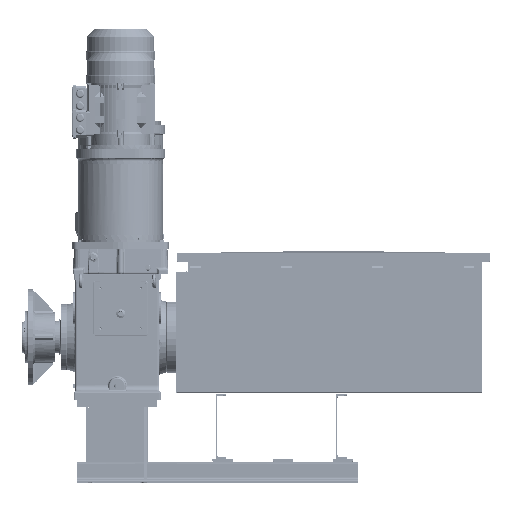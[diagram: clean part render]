
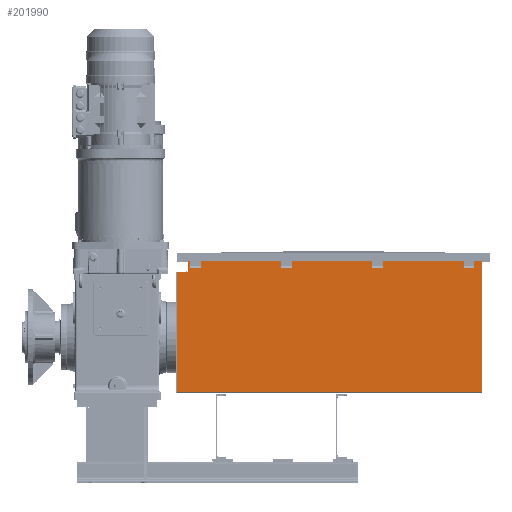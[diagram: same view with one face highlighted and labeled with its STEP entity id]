
A CAD part, top view. The second image highlights one B-rep face of the part: STEP entity #201990.
In plain terms, the highlighted planar face has unit normal (0, 0, 1).
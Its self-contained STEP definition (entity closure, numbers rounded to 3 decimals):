
#18677=FACE_OUTER_BOUND('',#30603,.T.);
#30603=EDGE_LOOP('',(#158642,#158643,#158644,#158645,#158646,#158647,#158648,
#158649,#158650,#158651,#158652,#158653,#158654,#158655,#158656,#158657,
#158658,#158659,#158660,#158661,#158662,#158663));
#44962=LINE('',#342445,#62102);
#44994=LINE('',#342526,#62134);
#45022=LINE('',#342589,#62162);
#45023=LINE('',#342591,#62163);
#45024=LINE('',#342593,#62164);
#45025=LINE('',#342595,#62165);
#45026=LINE('',#342596,#62166);
#45027=LINE('',#342598,#62167);
#45028=LINE('',#342600,#62168);
#45029=LINE('',#342602,#62169);
#45030=LINE('',#342604,#62170);
#45031=LINE('',#342606,#62171);
#45032=LINE('',#342608,#62172);
#45033=LINE('',#342610,#62173);
#45034=LINE('',#342612,#62174);
#45035=LINE('',#342614,#62175);
#45036=LINE('',#342616,#62176);
#45037=LINE('',#342618,#62177);
#45038=LINE('',#342620,#62178);
#45039=LINE('',#342622,#62179);
#45040=LINE('',#342624,#62180);
#45041=LINE('',#342625,#62181);
#62102=VECTOR('',#255507,1138.);
#62134=VECTOR('',#255567,494.048);
#62162=VECTOR('',#255607,32.647);
#62163=VECTOR('',#255608,9.984);
#62164=VECTOR('',#255609,46.032);
#62165=VECTOR('',#255610,40.);
#62166=VECTOR('',#255611,448.016);
#62167=VECTOR('',#255612,28.016);
#62168=VECTOR('',#255613,32.647);
#62169=VECTOR('',#255614,40.);
#62170=VECTOR('',#255615,32.647);
#62171=VECTOR('',#255616,300.);
#62172=VECTOR('',#255617,32.647);
#62173=VECTOR('',#255618,40.);
#62174=VECTOR('',#255619,32.647);
#62175=VECTOR('',#255620,300.);
#62176=VECTOR('',#255621,32.647);
#62177=VECTOR('',#255622,40.);
#62178=VECTOR('',#255623,32.647);
#62179=VECTOR('',#255624,300.);
#62180=VECTOR('',#255625,32.647);
#62181=VECTOR('',#255626,40.);
#87855=VERTEX_POINT('',#342443);
#87856=VERTEX_POINT('',#342444);
#87891=VERTEX_POINT('',#342524);
#87919=VERTEX_POINT('',#342587);
#87920=VERTEX_POINT('',#342588);
#87921=VERTEX_POINT('',#342590);
#87922=VERTEX_POINT('',#342592);
#87923=VERTEX_POINT('',#342594);
#87924=VERTEX_POINT('',#342597);
#87925=VERTEX_POINT('',#342599);
#87926=VERTEX_POINT('',#342601);
#87927=VERTEX_POINT('',#342603);
#87928=VERTEX_POINT('',#342605);
#87929=VERTEX_POINT('',#342607);
#87930=VERTEX_POINT('',#342609);
#87931=VERTEX_POINT('',#342611);
#87932=VERTEX_POINT('',#342613);
#87933=VERTEX_POINT('',#342615);
#87934=VERTEX_POINT('',#342617);
#87935=VERTEX_POINT('',#342619);
#87936=VERTEX_POINT('',#342621);
#87937=VERTEX_POINT('',#342623);
#112508=EDGE_CURVE('',#87855,#87856,#44962,.T.);
#112550=EDGE_CURVE('',#87891,#87855,#44994,.T.);
#112580=EDGE_CURVE('',#87919,#87920,#45022,.T.);
#112581=EDGE_CURVE('',#87920,#87921,#45023,.T.);
#112582=EDGE_CURVE('',#87921,#87922,#45024,.T.);
#112583=EDGE_CURVE('',#87922,#87923,#45025,.T.);
#112584=EDGE_CURVE('',#87856,#87923,#45026,.T.);
#112585=EDGE_CURVE('',#87891,#87924,#45027,.T.);
#112586=EDGE_CURVE('',#87924,#87925,#45028,.T.);
#112587=EDGE_CURVE('',#87925,#87926,#45029,.T.);
#112588=EDGE_CURVE('',#87926,#87927,#45030,.T.);
#112589=EDGE_CURVE('',#87927,#87928,#45031,.T.);
#112590=EDGE_CURVE('',#87928,#87929,#45032,.T.);
#112591=EDGE_CURVE('',#87929,#87930,#45033,.T.);
#112592=EDGE_CURVE('',#87930,#87931,#45034,.T.);
#112593=EDGE_CURVE('',#87931,#87932,#45035,.T.);
#112594=EDGE_CURVE('',#87932,#87933,#45036,.T.);
#112595=EDGE_CURVE('',#87933,#87934,#45037,.T.);
#112596=EDGE_CURVE('',#87934,#87935,#45038,.T.);
#112597=EDGE_CURVE('',#87935,#87936,#45039,.T.);
#112598=EDGE_CURVE('',#87936,#87937,#45040,.T.);
#112599=EDGE_CURVE('',#87937,#87919,#45041,.T.);
#158642=ORIENTED_EDGE('',*,*,#112580,.T.);
#158643=ORIENTED_EDGE('',*,*,#112581,.T.);
#158644=ORIENTED_EDGE('',*,*,#112582,.T.);
#158645=ORIENTED_EDGE('',*,*,#112583,.T.);
#158646=ORIENTED_EDGE('',*,*,#112584,.F.);
#158647=ORIENTED_EDGE('',*,*,#112508,.F.);
#158648=ORIENTED_EDGE('',*,*,#112550,.F.);
#158649=ORIENTED_EDGE('',*,*,#112585,.T.);
#158650=ORIENTED_EDGE('',*,*,#112586,.T.);
#158651=ORIENTED_EDGE('',*,*,#112587,.T.);
#158652=ORIENTED_EDGE('',*,*,#112588,.T.);
#158653=ORIENTED_EDGE('',*,*,#112589,.T.);
#158654=ORIENTED_EDGE('',*,*,#112590,.T.);
#158655=ORIENTED_EDGE('',*,*,#112591,.T.);
#158656=ORIENTED_EDGE('',*,*,#112592,.T.);
#158657=ORIENTED_EDGE('',*,*,#112593,.T.);
#158658=ORIENTED_EDGE('',*,*,#112594,.T.);
#158659=ORIENTED_EDGE('',*,*,#112595,.T.);
#158660=ORIENTED_EDGE('',*,*,#112596,.T.);
#158661=ORIENTED_EDGE('',*,*,#112597,.T.);
#158662=ORIENTED_EDGE('',*,*,#112598,.T.);
#158663=ORIENTED_EDGE('',*,*,#112599,.T.);
#181215=PLANE('',#217377);
#201990=ADVANCED_FACE('',(#18677),#181215,.T.);
#217377=AXIS2_PLACEMENT_3D('',#342586,#255605,#255606);
#255507=DIRECTION('',(-1.,0.,0.));
#255567=DIRECTION('',(0.,-1.,0.));
#255605=DIRECTION('center_axis',(0.,0.,
1.));
#255606=DIRECTION('ref_axis',(0.,1.,0.));
#255607=DIRECTION('',(0.,1.,0.));
#255608=DIRECTION('',(-1.,0.,0.));
#255609=DIRECTION('',(0.,-1.,0.));
#255610=DIRECTION('',(-1.,0.,0.));
#255611=DIRECTION('',(0.,1.,0.));
#255612=DIRECTION('',(-1.,0.,0.));
#255613=DIRECTION('',(0.,-1.,0.));
#255614=DIRECTION('',(-1.,0.,0.));
#255615=DIRECTION('',(0.,1.,0.));
#255616=DIRECTION('',(-1.,0.,0.));
#255617=DIRECTION('',(0.,-1.,0.));
#255618=DIRECTION('',(-1.,0.,0.));
#255619=DIRECTION('',(0.,1.,0.));
#255620=DIRECTION('',(-1.,0.,0.));
#255621=DIRECTION('',(0.,-1.,0.));
#255622=DIRECTION('',(-1.,0.,0.));
#255623=DIRECTION('',(0.,1.,0.));
#255624=DIRECTION('',(-1.,0.,0.));
#255625=DIRECTION('',(0.,-1.,0.));
#255626=DIRECTION('',(-1.,0.,0.));
#342443=CARTESIAN_POINT('',(1400.51,-264.668,105.519));
#342444=CARTESIAN_POINT('',(262.51,-264.668,105.519));
#342445=CARTESIAN_POINT('',(262.51,-264.668,105.519));
#342524=CARTESIAN_POINT('',(1400.51,229.38,105.519));
#342526=CARTESIAN_POINT('',(1400.51,233.348,105.519));
#342586=CARTESIAN_POINT('Origin',(831.51,-16.652,105.519));
#342587=CARTESIAN_POINT('',(312.493,196.733,105.519));
#342588=CARTESIAN_POINT('',(312.493,229.38,105.519));
#342589=CARTESIAN_POINT('',(312.493,95.978,105.519));
#342590=CARTESIAN_POINT('',(302.51,229.38,105.519));
#342591=CARTESIAN_POINT('',(1116.01,229.38,105.519));
#342592=CARTESIAN_POINT('',(302.51,183.348,105.519));
#342593=CARTESIAN_POINT('',(302.51,108.348,105.519));
#342594=CARTESIAN_POINT('',(262.51,183.348,105.519));
#342595=CARTESIAN_POINT('',(567.01,183.348,105.519));
#342596=CARTESIAN_POINT('',(262.51,-266.652,105.519));
#342597=CARTESIAN_POINT('',(1372.493,229.38,105.519));
#342598=CARTESIAN_POINT('',(1116.01,229.38,105.519));
#342599=CARTESIAN_POINT('',(1372.493,196.733,105.519));
#342600=CARTESIAN_POINT('',(1372.493,95.978,105.519));
#342601=CARTESIAN_POINT('',(1332.493,196.733,105.519));
#342602=CARTESIAN_POINT('',(1092.001,196.733,105.519));
#342603=CARTESIAN_POINT('',(1332.493,229.38,105.519));
#342604=CARTESIAN_POINT('',(1332.493,95.978,105.519));
#342605=CARTESIAN_POINT('',(1032.493,229.38,105.519));
#342606=CARTESIAN_POINT('',(1116.01,229.38,105.519));
#342607=CARTESIAN_POINT('',(1032.493,196.733,105.519));
#342608=CARTESIAN_POINT('',(1032.493,95.978,105.519));
#342609=CARTESIAN_POINT('',(992.493,196.733,105.519));
#342610=CARTESIAN_POINT('',(922.001,196.733,105.519));
#342611=CARTESIAN_POINT('',(992.493,229.38,105.519));
#342612=CARTESIAN_POINT('',(992.493,95.978,105.519));
#342613=CARTESIAN_POINT('',(692.493,229.38,105.519));
#342614=CARTESIAN_POINT('',(1116.01,229.38,105.519));
#342615=CARTESIAN_POINT('',(692.493,196.733,105.519));
#342616=CARTESIAN_POINT('',(692.493,95.978,105.519));
#342617=CARTESIAN_POINT('',(652.493,196.733,105.519));
#342618=CARTESIAN_POINT('',(752.001,196.733,105.519));
#342619=CARTESIAN_POINT('',(652.493,229.38,105.519));
#342620=CARTESIAN_POINT('',(652.493,95.978,105.519));
#342621=CARTESIAN_POINT('',(352.493,229.38,105.519));
#342622=CARTESIAN_POINT('',(1116.01,229.38,105.519));
#342623=CARTESIAN_POINT('',(352.493,196.733,105.519));
#342624=CARTESIAN_POINT('',(352.493,95.978,105.519));
#342625=CARTESIAN_POINT('',(582.001,196.733,105.519));
